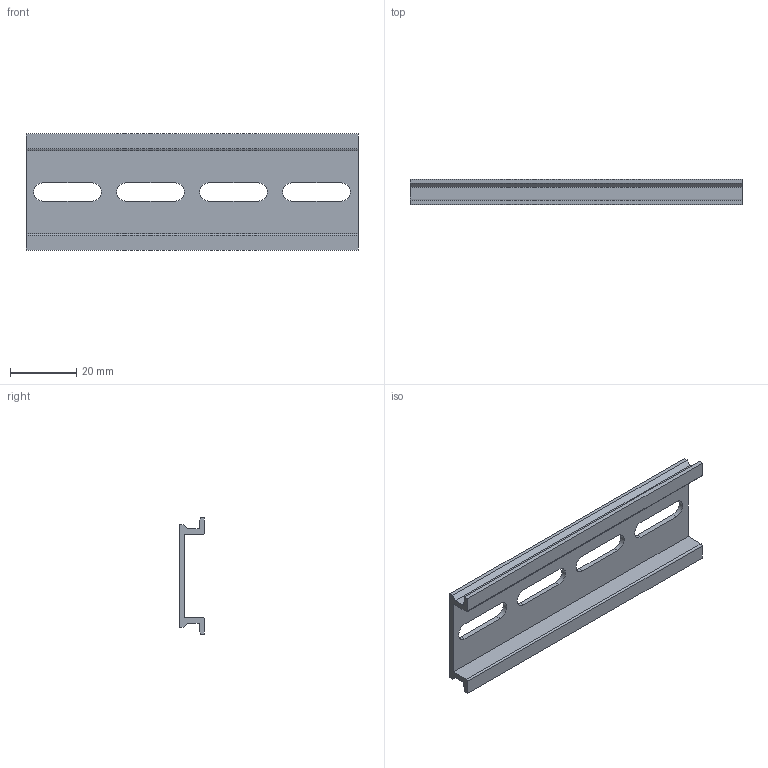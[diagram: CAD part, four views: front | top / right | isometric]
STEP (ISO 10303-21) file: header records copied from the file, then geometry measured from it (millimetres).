
FILE_DESCRIPTION( (''), '2;1');
FILE_NAME ('CVICAD02.15516.DIN-RAIL100_7305.stp','2020-09-01T14:17:57',(''),(''),'spGate 12.6.6','','');
FILE_SCHEMA (('AUTOMOTIVE_DESIGN'));
Length unit declared in the file: millimetre
Bounding box: 100 x 7.5 x 35 mm (x, y, z)
Volume: 7060 mm3; surface area: 9557.1 mm2
Topology: 1 solids, 1 shells, 36 faces, 102 edges, 68 vertices
Faces by surface type: plane 26, cylinder 10
Entity records: 1997 total; most frequent: CARTESIAN_POINT 206, ORIENTED_EDGE 204, DIRECTION 194, COLOUR_RGB 139, PRESENTATION_STYLE_ASSIGNMENT 139, STYLED_ITEM 139, EDGE_CURVE 102, DRAUGHTING_PRE_DEFINED_CURVE_FONT 102
